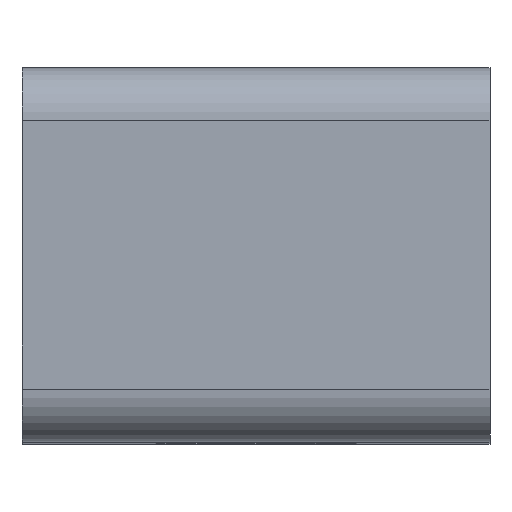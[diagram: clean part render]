
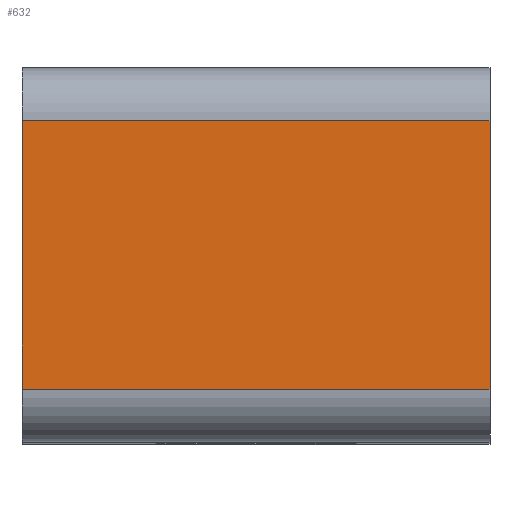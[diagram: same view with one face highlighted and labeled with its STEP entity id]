
A CAD part, top view. The second image highlights one B-rep face of the part: STEP entity #632.
In plain terms, the highlighted planar face has unit normal (0, 0, 1).
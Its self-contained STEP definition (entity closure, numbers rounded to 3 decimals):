
#8 = VERTEX_POINT ( 'NONE', #52 ) ;
#14 = VECTOR ( 'NONE', #380, 1000. ) ;
#52 = CARTESIAN_POINT ( 'NONE',  ( 7.5, 10.3, 20.35 ) ) ;
#127 = CARTESIAN_POINT ( 'NONE',  ( 7.5, 1.7, 20.35 ) ) ;
#157 = VECTOR ( 'NONE', #820, 1000. ) ;
#203 = DIRECTION ( 'NONE',  ( 0., -1., 0. ) ) ;
#249 = LINE ( 'NONE', #737, #14 ) ;
#357 = LINE ( 'NONE', #730, #157 ) ;
#365 = VECTOR ( 'NONE', #203, 1000. ) ;
#380 = DIRECTION ( 'NONE',  ( -1., 0., 0. ) ) ;
#385 = ORIENTED_EDGE ( 'NONE', *, *, #502, .T. ) ;
#396 = DIRECTION ( 'NONE',  ( 0., -1., 0. ) ) ;
#502 = EDGE_CURVE ( 'NONE', #8, #510, #357, .T. ) ;
#503 = CARTESIAN_POINT ( 'NONE',  ( 7.5, 1.7, 20.35 ) ) ;
#510 = VERTEX_POINT ( 'NONE', #908 ) ;
#517 = LINE ( 'NONE', #945, #970 ) ;
#577 = CARTESIAN_POINT ( 'NONE',  ( -7.5, 1.7, 20.35 ) ) ;
#585 = DIRECTION ( 'NONE',  ( -1., 0., 0. ) ) ;
#598 = EDGE_CURVE ( 'NONE', #909, #779, #249, .T. ) ;
#608 = EDGE_CURVE ( 'NONE', #8, #909, #517, .T. ) ;
#632 = ADVANCED_FACE ( 'NONE', ( #698 ), #1047, .F. ) ;
#651 = EDGE_LOOP ( 'NONE', ( #696, #1061, #1099, #385 ) ) ;
#657 = AXIS2_PLACEMENT_3D ( 'NONE', #503, #1134, #585 ) ;
#696 = ORIENTED_EDGE ( 'NONE', *, *, #835, .T. ) ;
#698 = FACE_OUTER_BOUND ( 'NONE', #651, .T. ) ;
#730 = CARTESIAN_POINT ( 'NONE',  ( 7.5, 10.3, 20.35 ) ) ;
#737 = CARTESIAN_POINT ( 'NONE',  ( 7.5, 1.7, 20.35 ) ) ;
#779 = VERTEX_POINT ( 'NONE', #577 ) ;
#820 = DIRECTION ( 'NONE',  ( -1., 0., 0. ) ) ;
#835 = EDGE_CURVE ( 'NONE', #510, #779, #848, .T. ) ;
#848 = LINE ( 'NONE', #923, #365 ) ;
#908 = CARTESIAN_POINT ( 'NONE',  ( -7.5, 10.3, 20.35 ) ) ;
#909 = VERTEX_POINT ( 'NONE', #127 ) ;
#923 = CARTESIAN_POINT ( 'NONE',  ( -7.5, 1.7, 20.35 ) ) ;
#945 = CARTESIAN_POINT ( 'NONE',  ( 7.5, 1.7, 20.35 ) ) ;
#970 = VECTOR ( 'NONE', #396, 1000. ) ;
#1047 = PLANE ( 'NONE',  #657 ) ;
#1061 = ORIENTED_EDGE ( 'NONE', *, *, #598, .F. ) ;
#1099 = ORIENTED_EDGE ( 'NONE', *, *, #608, .F. ) ;
#1134 = DIRECTION ( 'NONE',  ( 0., 0., -1. ) ) ;
